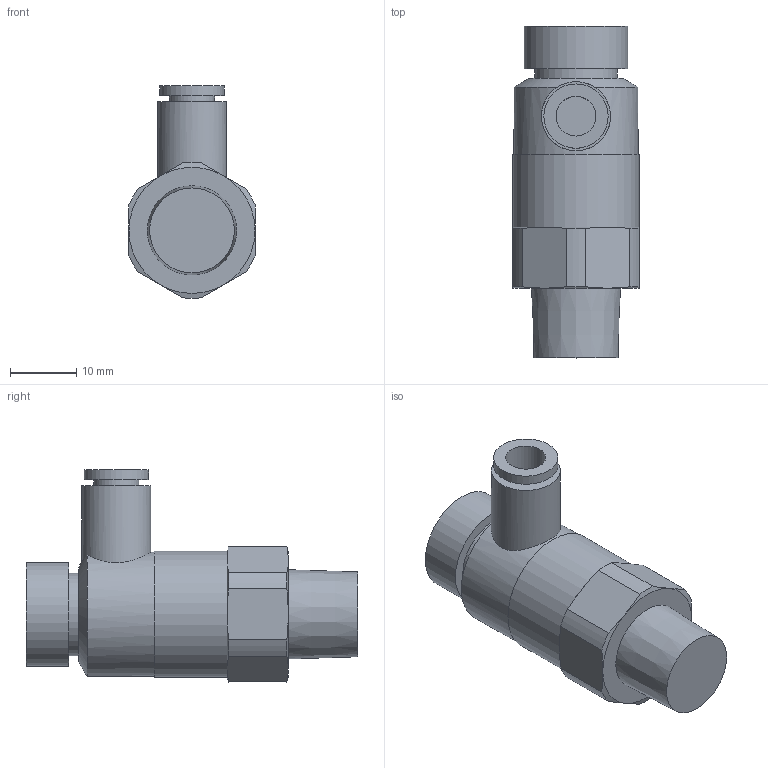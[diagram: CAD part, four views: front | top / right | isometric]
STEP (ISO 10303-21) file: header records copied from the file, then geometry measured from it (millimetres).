
FILE_DESCRIPTION(/* description */ ('STEP AP214'),/* implementation_level */ '2;1');
FILE_NAME(/* name */ 'AS3201F-02-06SA',/* time_stamp */ '2024-10-24T14:08:59+02:00',/* author */ ('License CC BY-ND 4.0'),/* organization */ ('CADENAS'),/* preprocessor_version */ 'ST-DEVELOPER v19.3',/* originating_system */ 'PARTsolutions',/* authorisation */ ' ');
FILE_SCHEMA (('AUTOMOTIVE_DESIGN {1 0 10303 214 3 1 1}'));
Length unit declared in the file: millimetre
Products named in the file (1): AS3201F-02-06SA
Bounding box: 19 x 50 x 32.04 mm (x, y, z)
Volume: 12467.8 mm3; surface area: 4125.3 mm2
Topology: 1 solids, 1 shells, 44 faces, 92 edges, 57 vertices
Faces by surface type: plane 16, cone 14, cylinder 14
Full cylindrical faces by diameter (mm): 6 x1, 6.79 x1, 9.7 x1, 10.4 x1, 12.45 x1, 15.6 x1, 18.7 x1, 19 x1
Entity records: 1170 total; most frequent: CARTESIAN_POINT 274, DIRECTION 184, ORIENTED_EDGE 158, AXIS2_PLACEMENT_3D 86, EDGE_CURVE 79, EDGE_LOOP 61, FACE_BOUND 61, VERTEX_POINT 54
